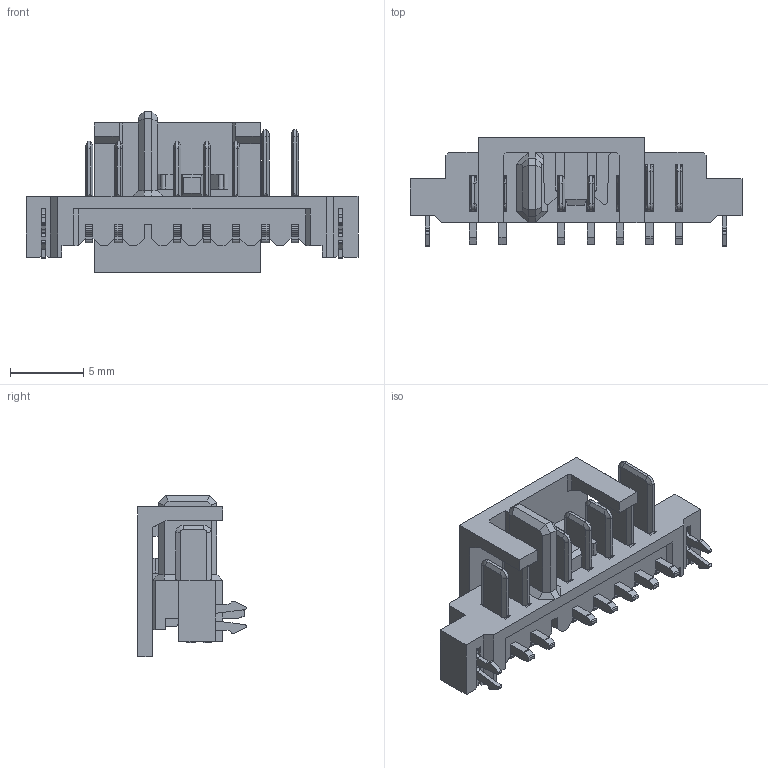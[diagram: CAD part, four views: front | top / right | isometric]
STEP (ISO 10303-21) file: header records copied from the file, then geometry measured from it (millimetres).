
FILE_DESCRIPTION((''),'2;1');
FILE_NAME('ASM0001_ASM','2012-04-11T',('12109895'),(''),'PRO/ENGINEER BY PARAMETRIC TECHNOLOGY CORPORATION, 2011190','PRO/ENGINEER BY PARAMETRIC TECHNOLOGY CORPORATION, 2011190','');
FILE_SCHEMA(('CONFIG_CONTROL_DESIGN'));
Products named in the file (3): 53025-007XX; PRT0002; ASM0001_ASM
Assembly tree (2 placements, depth 2):
  ASM0001_ASM
    53025-007XX
    PRT0002
Bounding box: 22.6 x 7.4 x 11 mm (x, y, z)
Volume: 489 mm3; surface area: 1357.7 mm2
Topology: 2 solids, 2 shells, 829 faces, 2500 edges, 1616 vertices
Faces by surface type: plane 566, cylinder 235, cone 28
Entity records: 28101 total; most frequent: CARTESIAN_POINT 5163, ORIENTED_EDGE 5000, DIRECTION 4608, EDGE_CURVE 2500, VECTOR 1948, LINE 1948, VERTEX_POINT 1616, AXIS2_PLACEMENT_3D 1330
